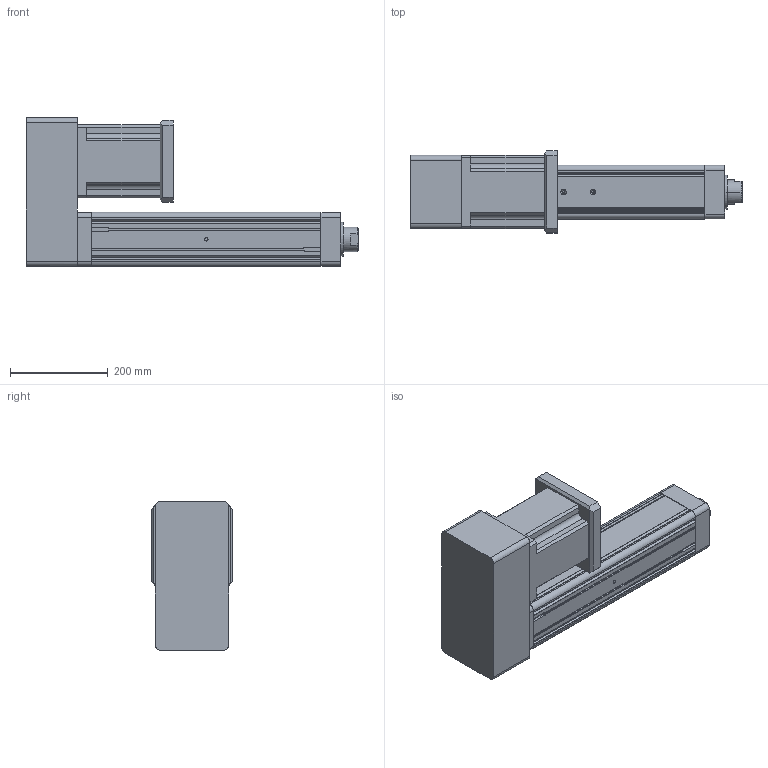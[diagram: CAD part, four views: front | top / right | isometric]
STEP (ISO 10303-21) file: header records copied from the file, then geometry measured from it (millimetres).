
FILE_DESCRIPTION (( 'STEP AP203' ), '1' );
FILE_NAME ('YRJ110-L300-H1K2.STEP', '2020-01-04T05:52:11', ( 'User' ), ( 'China' ), 'SwSTEP 2.0', 'SolidWorks 2016', '' );
FILE_SCHEMA (( 'CONFIG_CONTROL_DESIGN' ));
Length unit declared in the file: millimetre
Products named in the file (7): 095-100俴最倰第; H1-110-1; H1-110-2; 萇儂碟-110; 142熬厒儂; K2-110; YRJ110-L300-H1K2
Assembly tree (6 placements, depth 2):
  YRJ110-L300-H1K2
    095-100俴最倰第
    H1-110-1
    H1-110-2
    萇儂碟-110
    142熬厒儂
    K2-110
Bounding box: 681 x 168 x 305.5 mm (x, y, z)
Volume: 11736101.5 mm3; surface area: 892423.6 mm2
Topology: 6 solids, 6 shells, 311 faces, 854 edges, 545 vertices
Faces by surface type: plane 162, cylinder 114, cone 35
Entity records: 10772 total; most frequent: CARTESIAN_POINT 2035, DIRECTION 1691, ORIENTED_EDGE 1660, EDGE_CURVE 830, VECTOR 565, LINE 565, AXIS2_PLACEMENT_3D 563, VERTEX_POINT 545
